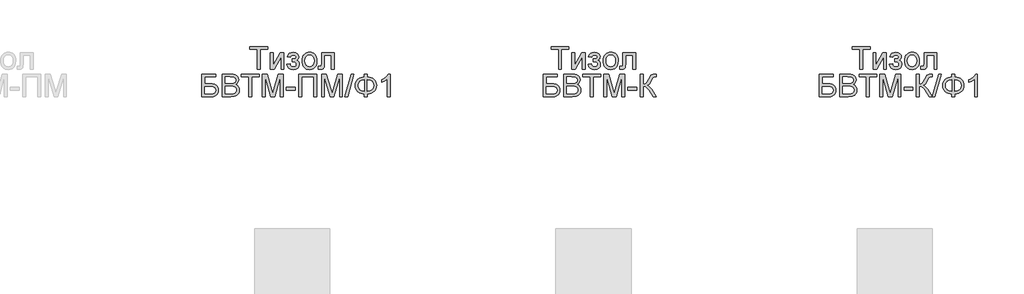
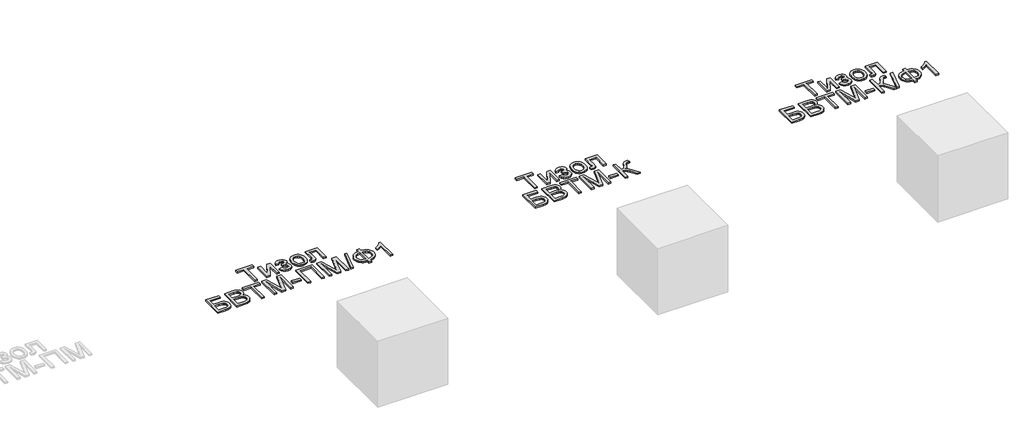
# One storey, part 18 of 35: 3 proxies.
"""IFC4 building model written with IfcOpenShell, lengths in millimetres."""

from ifc_helpers import new_model, si_unit, origin, origin_with_axes, place, context, project, spatial, polyline, outline, extrude, element, save

model = new_model("IFC4")

# Units and contexts
model_context = context("Model", 3, world=origin())
ifc_project = project(units=[si_unit("LENGTHUNIT", "METRE", prefix="MILLI")], contexts=[model_context])

# Site, building, storey
site = spatial("IfcSite", under=ifc_project)
building = spatial("IfcBuilding", under=site)
storey = spatial("IfcBuildingStorey", under=building, Name="Этаж 01", Elevation=0.0)

# Proxies
placement = place(None, origin())
element("IfcBuildingElementProxy", 1, Name="600 мм Arial", ObjectType="600 мм Arial", at=placement, inside=storey, context=model_context, shape_type="SweptSolid", body=[
    extrude(outline(polyline([(5437.6102066, -38214.5066797), (5437.6102066, -37950.8088656), (5338.7235263, -37950.8088656), (5338.7235263, -37913.1377493), (5574.1680032, -37913.1377493), (5574.1680032, -37950.8088656), (5475.2813229, -37950.8088656), (5475.2813229, -38214.5066797), (5437.6102066, -38214.5066797)])), origin_with_axes(), (0.0, 0.0, 1.0), 20.0),
    extrude(outline(polyline([(5611.8391195, -37993.1888714), (5649.5102358, -37993.1888714), (5649.5102358, -38161.9731308), (5742.0693458, -37993.1888714), (5790.776922, -37993.1888714), (5790.776922, -38214.5066797), (5753.1058056, -38214.5066797), (5753.1058056, -38046.7524899), (5661.1353069, -38214.5066797), (5611.8391195, -38214.5066797), (5611.8391195, -37993.1888714)])), origin_with_axes(), (0.0, 0.0, 1.0), 20.0),
    extrude(outline(polyline([(5899.0813813, -38115.6199994), (5899.0813813, -38077.9488831), (5928.8062465, -38076.4773551), (5943.8158319, -38068.6414686), (5949.1133327, -38061.2930258), (5950.8791663, -38052.2707199), (5948.5155244, -38041.5561567), (5941.424599, -38033.2512207), (5930.5996713, -38027.9261288), (5917.0340227, -38026.1510982), (5903.3212213, -38027.9169318), (5891.834106, -38033.2144325), (5882.5726768, -38042.0436004), (5875.5369336, -38054.4044354), (5833.1569278, -38049.6955459), (5844.3957227, -38022.9137366), (5861.4838414, -38003.7838729), (5884.4212838, -37992.3059546), (5913.2080499, -37988.4799819), (5944.6987487, -37993.1428862), (5968.537502, -38007.131599), (5983.5470874, -38027.595035), (5988.5502826, -38051.6821087), (5986.7706534, -38064.0429437), (5981.431766, -38075.0794036), (5972.5336202, -38084.7914882), (5960.0762161, -38093.1791977), (5974.616752, -38103.6454405), (5984.9818272, -38116.650069), (5991.1898359, -38132.2298715), (5993.2591721, -38150.4216362), (5988.0076566, -38178.1507416), (5972.2531102, -38200.1224937), (5947.0623906, -38214.4423004), (5913.5023555, -38219.2155693), (5880.6780845, -38214.8009853), (5855.5609413, -38201.5572335), (5838.1509259, -38179.4843138), (5828.4480383, -38148.5822262), (5870.8280441, -38143.8733367), (5877.1740085, -38159.802627), (5887.8241923, -38171.6852155), (5901.5461907, -38179.0796436), (5917.1075991, -38181.544453), (5932.2643373, -38179.1808111), (5944.6251723, -38172.0898857), (5952.8473349, -38161.3201403), (5955.5880558, -38147.9200386), (5953.8866016, -38137.306643), (5948.7822389, -38128.1279873), (5934.2876883, -38117.5329858), (5906.4390212, -38115.3992702), (5899.0813813, -38115.6199994)])), origin_with_axes(), (0.0, 0.0, 1.0), 20.0),
    extrude(outline(polyline([(6030.9302884, -38103.8477756), (6032.967435, -38075.1851696), (6039.0788746, -38050.4864922), (6049.2646073, -38029.7517432), (6063.5246332, -38012.9809228), (6077.881228, -38002.2617611), (6093.727745, -37994.6052171), (6111.064184, -37990.0112907), (6129.8905451, -37988.4799819), (6150.6735786, -37990.3446838), (6169.4654507, -37995.9387893), (6186.2661616, -38005.2622987), (6201.0757112, -38018.3152117), (6213.162934, -38034.6560701), (6221.7966646, -38053.8434154), (6226.9769029, -38075.8772476), (6228.703649, -38100.7575668), (6225.6502285, -38138.8149592), (6216.4899668, -38167.7856663), (6201.4895784, -38189.481507), (6180.9157778, -38205.7143), (6156.4792163, -38215.840252), (6129.8905451, -38219.2155693), (6108.804009, -38217.3577652), (6089.8373929, -38211.784353), (6072.9906968, -38202.4953326), (6058.2639206, -38189.4907041), (6046.3054565, -38172.9911966), (6037.7636965, -38153.2175393), (6032.6386404, -38130.1697323), (6030.9302884, -38103.8477756)]), holes=[polyline([(6068.6014047, -38103.7741992), (6072.9608064, -38137.8676631), (6086.0390113, -38162.1570718), (6105.720698, -38176.6976077), (6129.8905451, -38181.544453), (6153.9500276, -38176.6700165), (6173.5949261, -38162.0467072), (6186.6731311, -38137.4354017), (6191.0325327, -38102.5969768), (6186.6455399, -38069.4967943), (6173.4845615, -38045.5384793), (6153.8120718, -38030.9979435), (6129.8905451, -38026.1510982), (6105.720698, -38030.9795494), (6086.0390113, -38045.4649029), (6072.9608064, -38069.6991294), (6068.6014047, -38103.7741992)])]), origin_with_axes(), (0.0, 0.0, 1.0), 20.0),
    extrude(outline(polyline([(6289.919213, -37993.1888714), (6459.4392364, -37993.1888714), (6459.4392364, -38214.2859505), (6421.7681201, -38214.2859505), (6421.7681201, -38030.8599877), (6327.5903293, -38030.8599877), (6327.5903293, -38136.4421204), (6325.0519435, -38185.1496965), (6320.2970688, -38196.1769593), (6311.1092159, -38205.7143), (6297.1664883, -38212.3085848), (6278.1469892, -38214.5066797), (6247.5392072, -38212.5936934), (6247.5392072, -38176.8355634), (6264.3882025, -38176.8355634), (6281.4211389, -38174.5179069), (6288.2269558, -38167.1602669), (6289.919213, -38134.3084048), (6289.919213, -37993.1888714)])), origin_with_axes(), (0.0, 0.0, 1.0), 20.0),
    extrude(outline(polyline([(4698.3145491, -38279.0622028), (4886.6701306, -38279.0622028), (4886.6701306, -38316.7333191), (4735.9856654, -38316.7333191), (4735.9856654, -38406.2022203), (4806.5454321, -38406.2022203), (4841.6229803, -38408.1152067), (4868.7174892, -38413.8541658), (4889.5212161, -38424.9090198), (4905.726418, -38442.7696907), (4916.1558725, -38465.7623154), (4919.6323574, -38492.2130308), (4917.158351, -38514.4239063), (4909.7363317, -38535.1448597), (4897.4030878, -38553.2906391), (4880.1954075, -38567.7759926), (4853.6527215, -38577.2673481), (4813.3144608, -38580.4311333), (4698.3145491, -38580.4311333), (4698.3145491, -38279.0622028)]), holes=[polyline([(4735.9856654, -38542.760017), (4816.6989751, -38542.760017), (4845.2282238, -38539.6514141), (4865.6272805, -38530.3256055), (4877.8777509, -38514.7825912), (4881.9612411, -38493.0223712), (4879.6251904, -38476.8171693), (4872.6170384, -38463.5182352), (4861.4426228, -38453.6589977), (4846.6077813, -38447.7728858), (4789.8435895, -38443.8733367), (4735.9856654, -38443.8733367), (4735.9856654, -38542.760017)])]), origin_with_axes(), (0.0, 0.0, 1.0), 20.0),
    extrude(outline(polyline([(4971.4301423, -38580.4311333), (4971.4301423, -38279.0622028), (5086.430054, -38279.0622028), (5118.0587085, -38281.2786918), (5142.7527874, -38287.9281589), (5161.6803161, -38299.1761509), (5176.0093198, -38315.1882147), (5185.0316257, -38334.0237729), (5188.0390611, -38353.7422478), (5185.5098723, -38371.8880272), (5177.9223062, -38388.9485548), (5165.2211803, -38403.8753667), (5147.3513124, -38415.6199994), (5168.6976652, -38426.7668239), (5184.4706057, -38443.7261839), (5194.2102815, -38465.3760393), (5197.4568401, -38490.59435), (5195.2403511, -38511.609609), (5188.590884, -38531.0981577), (5178.6672672, -38547.6712416), (5166.6283289, -38559.9401061), (5151.885458, -38568.8244563), (5133.8500432, -38575.2439971), (5085.5471372, -38580.4311333), (4971.4301423, -38580.4311333)]), holes=[polyline([(5009.1012586, -38401.4933308), (5077.8951917, -38401.4933308), (5118.0679056, -38398.2559693), (5132.1301948, -38392.67336), (5142.2377527, -38384.3132416), (5148.3353967, -38373.3043729), (5150.3679447, -38359.7755126), (5148.4733525, -38346.6421253), (5142.7895756, -38335.2009953), (5133.5741317, -38326.2706598), (5121.0845379, -38320.6696565), (5072.6712674, -38316.7333191), (5009.1012586, -38316.7333191), (5009.1012586, -38401.4933308)]), polyline([(5009.1012586, -38542.760017), (5086.3564776, -38542.760017), (5114.3155092, -38541.288489), (5137.9703215, -38533.0847205), (5153.6420945, -38516.3460897), (5158.2498165, -38504.5186836), (5159.7857238, -38490.962232), (5157.983102, -38475.2168826), (5152.5752367, -38461.6788252), (5143.1298665, -38451.0930208), (5129.21473, -38444.2044304), (5109.5054521, -38440.4244429), (5082.6776576, -38439.1644471), (5009.1012586, -38439.1644471), (5009.1012586, -38542.760017)])]), origin_with_axes(), (0.0, 0.0, 1.0), 20.0),
    extrude(outline(polyline([(5324.5968577, -38580.4311333), (5324.5968577, -38316.7333191), (5225.7101774, -38316.7333191), (5225.7101774, -38279.0622028), (5461.1546543, -38279.0622028), (5461.1546543, -38316.7333191), (5362.267974, -38316.7333191), (5362.267974, -38580.4311333), (5324.5968577, -38580.4311333)])), origin_with_axes(), (0.0, 0.0, 1.0), 20.0),
    extrude(outline(polyline([(5503.5346601, -38580.4311333), (5503.5346601, -38279.0622028), (5568.3554677, -38279.0622028), (5630.0124901, -38491.4772668), (5642.4469015, -38535.8438354), (5655.9113825, -38487.7984469), (5716.5383353, -38279.0622028), (5781.3591429, -38279.0622028), (5781.3591429, -38580.4311333), (5743.6880266, -38580.4311333), (5743.6880266, -38316.7333191), (5667.977912, -38580.4311333), (5616.915891, -38580.4311333), (5541.2057764, -38316.7333191), (5541.2057764, -38580.4311333), (5503.5346601, -38580.4311333)])), origin_with_axes(), (0.0, 0.0, 1.0), 20.0),
    extrude(outline(polyline([(5823.7391487, -38490.962232), (5823.7391487, -38453.2911157), (5941.4613872, -38453.2911157), (5941.4613872, -38490.962232), (5823.7391487, -38490.962232)])), origin_with_axes(), (0.0, 0.0, 1.0), 20.0),
    extrude(outline(polyline([(5988.5502826, -38279.0622028), (6223.9947595, -38279.0622028), (6223.9947595, -38580.4311333), (6186.3236432, -38580.4311333), (6186.3236432, -38316.7333191), (6026.2213989, -38316.7333191), (6026.2213989, -38580.4311333), (5988.5502826, -38580.4311333), (5988.5502826, -38279.0622028)])), origin_with_axes(), (0.0, 0.0, 1.0), 20.0),
    extrude(outline(polyline([(6289.919213, -38580.4311333), (6289.919213, -38279.0622028), (6354.7400206, -38279.0622028), (6416.397043, -38491.4772668), (6428.8314544, -38535.8438354), (6442.2959354, -38487.7984469), (6502.9228882, -38279.0622028), (6567.7436958, -38279.0622028), (6567.7436958, -38580.4311333), (6530.0725795, -38580.4311333), (6530.0725795, -38316.7333191), (6454.3624649, -38580.4311333), (6403.3004439, -38580.4311333), (6327.5903293, -38316.7333191), (6327.5903293, -38580.4311333), (6289.919213, -38580.4311333)])), origin_with_axes(), (0.0, 0.0, 1.0), 20.0),
    extrude(outline(polyline([(6600.7059225, -38580.4311333), (6685.4659342, -38279.0622028), (6719.4582306, -38279.0622028), (6634.6982189, -38580.4311333), (6600.7059225, -38580.4311333)])), origin_with_axes(), (0.0, 0.0, 1.0), 20.0),
    extrude(outline(polyline([(6859.6948471, -38316.7333191), (6859.6948471, -38279.0622028), (6897.3659634, -38279.0622028), (6897.3659634, -38316.7333191), (6924.2374439, -38320.0534541), (6948.1244817, -38326.9236504), (6969.0270768, -38337.3439079), (6986.9452293, -38351.3142267), (7001.317919, -38368.0206678), (7011.5841259, -38386.6492923), (7017.7438501, -38407.2001003), (7019.7970914, -38429.6730916), (7017.8082294, -38451.6954276), (7011.8416433, -38471.9979152), (7001.8973331, -38490.5805545), (6987.9752989, -38507.4433454), (6970.3790432, -38521.6527875), (6949.4120687, -38532.2753801), (6925.0743755, -38539.3111233), (6897.3659634, -38542.760017), (6897.3659634, -38580.4311333), (6859.6948471, -38580.4311333), (6859.6948471, -38542.760017), (6834.5271201, -38539.9526175), (6811.5574881, -38533.5905582), (6790.7859509, -38523.6738392), (6772.2125087, -38510.2024604), (6756.9224133, -38493.7328433), (6746.0009165, -38474.8214095), (6739.4480185, -38453.4681589), (6737.2637191, -38429.6730916), (6739.4411207, -38405.769959), (6745.9733254, -38384.386818), (6756.8603332, -38365.5236687), (6772.1021441, -38349.1805111), (6790.6410974, -38335.8401902), (6811.4195323, -38325.9855513), (6834.4374489, -38319.6165943), (6859.6948471, -38316.7333191)]), holes=[polyline([(6897.3659634, -38354.4044354), (6897.3659634, -38505.0889007), (6932.6090586, -38498.8624979), (6959.4644442, -38483.7149567), (6969.378864, -38472.9888973), (6976.4605924, -38460.4188294), (6982.1259751, -38429.746668), (6976.56176, -38399.4883739), (6969.606491, -38386.9941817), (6959.8691144, -38376.2566259), (6933.1148963, -38360.9343408), (6897.3659634, -38354.4044354)]), polyline([(6859.6948471, -38354.4044354), (6825.4174422, -38360.4377001), (6798.3689185, -38375.4472855), (6788.1165072, -38386.1526516), (6780.7933562, -38398.771004), (6776.3994656, -38413.3023429), (6774.9348354, -38429.746668), (6776.3810715, -38446.0415412), (6780.7197798, -38460.4924058), (6787.9509603, -38473.0992619), (6798.0746129, -38483.8621095), (6825.0495602, -38499.0096507), (6859.6948471, -38505.0889007), (6859.6948471, -38354.4044354)])]), origin_with_axes(), (0.0, 0.0, 1.0), 20.0),
    extrude(outline(polyline([(7198.7348939, -38580.4311333), (7161.0637776, -38580.4311333), (7161.0637776, -38345.5752675), (7125.3792241, -38370.9959134), (7085.721545, -38390.0154126), (7085.721545, -38354.4044354), (7115.3084544, -38338.3095981), (7140.9406325, -38319.1613403), (7161.146551, -38298.7990719), (7174.4546822, -38279.0622028), (7198.7348939, -38279.0622028), (7198.7348939, -38580.4311333)])), origin_with_axes(), (0.0, 0.0, 1.0), 20.0),
])
element("IfcBuildingElementProxy", 2, Name="600 мм Arial", ObjectType="600 мм Arial", at=placement, inside=storey, context=model_context, shape_type="SweptSolid", body=[
    extrude(outline(polyline([(9437.6102066, -38214.5066797), (9437.6102066, -37950.8088656), (9338.7235263, -37950.8088656), (9338.7235263, -37913.1377493), (9574.1680032, -37913.1377493), (9574.1680032, -37950.8088656), (9475.2813229, -37950.8088656), (9475.2813229, -38214.5066797), (9437.6102066, -38214.5066797)])), origin_with_axes(), (0.0, 0.0, 1.0), 20.0),
    extrude(outline(polyline([(9611.8391195, -37993.1888714), (9649.5102358, -37993.1888714), (9649.5102358, -38161.9731308), (9742.0693458, -37993.1888714), (9790.776922, -37993.1888714), (9790.776922, -38214.5066797), (9753.1058056, -38214.5066797), (9753.1058056, -38046.7524899), (9661.1353069, -38214.5066797), (9611.8391195, -38214.5066797), (9611.8391195, -37993.1888714)])), origin_with_axes(), (0.0, 0.0, 1.0), 20.0),
    extrude(outline(polyline([(9899.0813813, -38115.6199994), (9899.0813813, -38077.9488831), (9928.8062465, -38076.4773551), (9943.8158319, -38068.6414686), (9949.1133327, -38061.2930258), (9950.8791663, -38052.2707199), (9948.5155244, -38041.5561567), (9941.424599, -38033.2512207), (9930.5996713, -38027.9261288), (9917.0340227, -38026.1510982), (9903.3212213, -38027.9169318), (9891.834106, -38033.2144325), (9882.5726768, -38042.0436004), (9875.5369336, -38054.4044354), (9833.1569278, -38049.6955459), (9844.3957227, -38022.9137366), (9861.4838414, -38003.7838729), (9884.4212838, -37992.3059546), (9913.2080499, -37988.4799819), (9944.6987487, -37993.1428862), (9968.537502, -38007.131599), (9983.5470874, -38027.595035), (9988.5502826, -38051.6821087), (9986.7706534, -38064.0429437), (9981.431766, -38075.0794036), (9972.5336202, -38084.7914882), (9960.0762161, -38093.1791977), (9974.616752, -38103.6454405), (9984.9818272, -38116.650069), (9991.1898359, -38132.2298715), (9993.2591721, -38150.4216362), (9988.0076566, -38178.1507416), (9972.2531102, -38200.1224937), (9947.0623906, -38214.4423004), (9913.5023555, -38219.2155693), (9880.6780845, -38214.8009853), (9855.5609413, -38201.5572335), (9838.1509259, -38179.4843138), (9828.4480383, -38148.5822262), (9870.8280441, -38143.8733367), (9877.1740085, -38159.802627), (9887.8241923, -38171.6852155), (9901.5461907, -38179.0796436), (9917.1075991, -38181.544453), (9932.2643373, -38179.1808111), (9944.6251723, -38172.0898857), (9952.8473349, -38161.3201403), (9955.5880558, -38147.9200386), (9953.8866016, -38137.306643), (9948.7822389, -38128.1279873), (9934.2876883, -38117.5329858), (9906.4390212, -38115.3992702), (9899.0813813, -38115.6199994)])), origin_with_axes(), (0.0, 0.0, 1.0), 20.0),
    extrude(outline(polyline([(10030.9302884, -38103.8477756), (10032.967435, -38075.1851696), (10039.0788746, -38050.4864922), (10049.2646073, -38029.7517432), (10063.5246332, -38012.9809228), (10077.881228, -38002.2617611), (10093.727745, -37994.6052171), (10111.064184, -37990.0112907), (10129.8905451, -37988.4799819), (10150.6735786, -37990.3446838), (10169.4654507, -37995.9387893), (10186.2661616, -38005.2622987), (10201.0757112, -38018.3152117), (10213.162934, -38034.6560701), (10221.7966646, -38053.8434154), (10226.9769029, -38075.8772476), (10228.703649, -38100.7575668), (10225.6502285, -38138.8149592), (10216.4899668, -38167.7856663), (10201.4895784, -38189.481507), (10180.9157778, -38205.7143), (10156.4792163, -38215.840252), (10129.8905451, -38219.2155693), (10108.804009, -38217.3577652), (10089.8373929, -38211.784353), (10072.9906968, -38202.4953326), (10058.2639206, -38189.4907041), (10046.3054565, -38172.9911966), (10037.7636965, -38153.2175393), (10032.6386404, -38130.1697323), (10030.9302884, -38103.8477756)]), holes=[polyline([(10068.6014047, -38103.7741992), (10072.9608064, -38137.8676631), (10086.0390113, -38162.1570718), (10105.720698, -38176.6976077), (10129.8905451, -38181.544453), (10153.9500276, -38176.6700165), (10173.5949261, -38162.0467072), (10186.6731311, -38137.4354017), (10191.0325327, -38102.5969768), (10186.6455399, -38069.4967943), (10173.4845615, -38045.5384793), (10153.8120718, -38030.9979435), (10129.8905451, -38026.1510982), (10105.720698, -38030.9795494), (10086.0390113, -38045.4649029), (10072.9608064, -38069.6991294), (10068.6014047, -38103.7741992)])]), origin_with_axes(), (0.0, 0.0, 1.0), 20.0),
    extrude(outline(polyline([(10289.919213, -37993.1888714), (10459.4392364, -37993.1888714), (10459.4392364, -38214.2859505), (10421.7681201, -38214.2859505), (10421.7681201, -38030.8599877), (10327.5903293, -38030.8599877), (10327.5903293, -38136.4421204), (10325.0519435, -38185.1496965), (10320.2970688, -38196.1769593), (10311.1092159, -38205.7143), (10297.1664883, -38212.3085848), (10278.1469892, -38214.5066797), (10247.5392072, -38212.5936934), (10247.5392072, -38176.8355634), (10264.3882025, -38176.8355634), (10281.4211389, -38174.5179069), (10288.2269558, -38167.1602669), (10289.919213, -38134.3084048), (10289.919213, -37993.1888714)])), origin_with_axes(), (0.0, 0.0, 1.0), 20.0),
    extrude(outline(polyline([(9232.7735117, -38279.0622028), (9421.1290932, -38279.0622028), (9421.1290932, -38316.7333191), (9270.444628, -38316.7333191), (9270.444628, -38406.2022203), (9341.0043946, -38406.2022203), (9376.0819429, -38408.1152067), (9403.1764518, -38413.8541658), (9423.9801787, -38424.9090198), (9440.1853805, -38442.7696907), (9450.6148351, -38465.7623154), (9454.09132, -38492.2130308), (9451.6173135, -38514.4239063), (9444.1952943, -38535.1448597), (9431.8620504, -38553.2906391), (9414.6543701, -38567.7759926), (9388.1116841, -38577.2673481), (9347.7734234, -38580.4311333), (9232.7735117, -38580.4311333), (9232.7735117, -38279.0622028)]), holes=[polyline([(9270.444628, -38542.760017), (9351.1579377, -38542.760017), (9379.6871864, -38539.6514141), (9400.0862431, -38530.3256055), (9412.3367135, -38514.7825912), (9416.4202037, -38493.0223712), (9414.084153, -38476.8171693), (9407.076001, -38463.5182352), (9395.9015854, -38453.6589977), (9381.0667439, -38447.7728858), (9324.3025521, -38443.8733367), (9270.444628, -38443.8733367), (9270.444628, -38542.760017)])]), origin_with_axes(), (0.0, 0.0, 1.0), 20.0),
    extrude(outline(polyline([(9505.8891049, -38580.4311333), (9505.8891049, -38279.0622028), (9620.8890166, -38279.0622028), (9652.5176711, -38281.2786918), (9677.21175, -38287.9281589), (9696.1392787, -38299.1761509), (9710.4682824, -38315.1882147), (9719.4905883, -38334.0237729), (9722.4980236, -38353.7422478), (9719.9688349, -38371.8880272), (9712.3812688, -38388.9485548), (9699.6801429, -38403.8753667), (9681.810275, -38415.6199994), (9703.1566278, -38426.7668239), (9718.9295683, -38443.7261839), (9728.6692441, -38465.3760393), (9731.9158027, -38490.59435), (9729.6993137, -38511.609609), (9723.0498466, -38531.0981577), (9713.1262298, -38547.6712416), (9701.0872915, -38559.9401061), (9686.3444206, -38568.8244563), (9668.3090058, -38575.2439971), (9620.0060998, -38580.4311333), (9505.8891049, -38580.4311333)]), holes=[polyline([(9543.5602212, -38401.4933308), (9612.3541543, -38401.4933308), (9652.5268682, -38398.2559693), (9666.5891574, -38392.67336), (9676.6967152, -38384.3132416), (9682.7943593, -38373.3043729), (9684.8269073, -38359.7755126), (9682.9323151, -38346.6421253), (9677.2485382, -38335.2009953), (9668.0330943, -38326.2706598), (9655.5435005, -38320.6696565), (9607.13023, -38316.7333191), (9543.5602212, -38316.7333191), (9543.5602212, -38401.4933308)]), polyline([(9543.5602212, -38542.760017), (9620.8154402, -38542.760017), (9648.7744718, -38541.288489), (9672.4292841, -38533.0847205), (9688.1010571, -38516.3460897), (9692.7087791, -38504.5186836), (9694.2446864, -38490.962232), (9692.4420646, -38475.2168826), (9687.0341993, -38461.6788252), (9677.5888291, -38451.0930208), (9663.6736926, -38444.2044304), (9643.9644147, -38440.4244429), (9617.1366202, -38439.1644471), (9543.5602212, -38439.1644471), (9543.5602212, -38542.760017)])]), origin_with_axes(), (0.0, 0.0, 1.0), 20.0),
    extrude(outline(polyline([(9859.0558203, -38580.4311333), (9859.0558203, -38316.7333191), (9760.16914, -38316.7333191), (9760.16914, -38279.0622028), (9995.6136169, -38279.0622028), (9995.6136169, -38316.7333191), (9896.7269366, -38316.7333191), (9896.7269366, -38580.4311333), (9859.0558203, -38580.4311333)])), origin_with_axes(), (0.0, 0.0, 1.0), 20.0),
    extrude(outline(polyline([(10037.9936227, -38580.4311333), (10037.9936227, -38279.0622028), (10102.8144303, -38279.0622028), (10164.4714527, -38491.4772668), (10176.9058641, -38535.8438354), (10190.3703451, -38487.7984469), (10250.9972979, -38279.0622028), (10315.8181055, -38279.0622028), (10315.8181055, -38580.4311333), (10278.1469892, -38580.4311333), (10278.1469892, -38316.7333191), (10202.4368746, -38580.4311333), (10151.3748536, -38580.4311333), (10075.664739, -38316.7333191), (10075.664739, -38580.4311333), (10037.9936227, -38580.4311333)])), origin_with_axes(), (0.0, 0.0, 1.0), 20.0),
    extrude(outline(polyline([(10358.1981113, -38490.962232), (10358.1981113, -38453.2911157), (10475.9203498, -38453.2911157), (10475.9203498, -38490.962232), (10358.1981113, -38490.962232)])), origin_with_axes(), (0.0, 0.0, 1.0), 20.0),
    extrude(outline(polyline([(10523.0092452, -38279.0622028), (10560.6803615, -38279.0622028), (10560.6803615, -38410.9111099), (10586.1837808, -38408.4187094), (10602.8028499, -38400.9415078), (10616.2397398, -38383.3475514), (10632.1966213, -38350.5048863), (10652.981954, -38308.3823978), (10663.0067384, -38296.9688589), (10676.5264017, -38287.5234887), (10692.5752538, -38281.1775243), (10710.1876043, -38279.0622028), (10734.9092744, -38279.5036612), (10734.9092744, -38317.1747775), (10726.5951413, -38316.9540483), (10718.2810082, -38316.7333191), (10701.0273426, -38318.9957934), (10688.8504486, -38325.7832162), (10678.3658117, -38340.0386435), (10666.4832233, -38364.5579785), (10651.9058992, -38395.0921841), (10639.8117786, -38411.7940267), (10613.8025216, -38427.3922233), (10628.3936412, -38433.6002319), (10642.8835933, -38444.4251596), (10671.5599948, -38479.9257722), (10734.9092744, -38580.4311333), (10691.2048933, -38580.4311333), (10637.6412748, -38495.5239688), (10616.9571097, -38468.2915041), (10599.9333703, -38451.1941884), (10582.5233549, -38442.1718824), (10560.6803615, -38439.1644471), (10560.6803615, -38580.4311333), (10523.0092452, -38580.4311333), (10523.0092452, -38279.0622028)])), origin_with_axes(), (0.0, 0.0, 1.0), 20.0),
])
element("IfcBuildingElementProxy", 3, Name="600 мм Arial", ObjectType="600 мм Arial", at=placement, inside=storey, context=model_context, shape_type="SweptSolid", body=[
    extrude(outline(polyline([(13437.6102066, -38214.5066797), (13437.6102066, -37950.8088656), (13338.7235263, -37950.8088656), (13338.7235263, -37913.1377493), (13574.1680032, -37913.1377493), (13574.1680032, -37950.8088656), (13475.2813229, -37950.8088656), (13475.2813229, -38214.5066797), (13437.6102066, -38214.5066797)])), origin_with_axes(), (0.0, 0.0, 1.0), 20.0),
    extrude(outline(polyline([(13611.8391195, -37993.1888714), (13649.5102358, -37993.1888714), (13649.5102358, -38161.9731308), (13742.0693458, -37993.1888714), (13790.776922, -37993.1888714), (13790.776922, -38214.5066797), (13753.1058056, -38214.5066797), (13753.1058056, -38046.7524899), (13661.1353069, -38214.5066797), (13611.8391195, -38214.5066797), (13611.8391195, -37993.1888714)])), origin_with_axes(), (0.0, 0.0, 1.0), 20.0),
    extrude(outline(polyline([(13899.0813813, -38115.6199994), (13899.0813813, -38077.9488831), (13928.8062465, -38076.4773551), (13943.8158319, -38068.6414686), (13949.1133327, -38061.2930258), (13950.8791663, -38052.2707199), (13948.5155244, -38041.5561567), (13941.424599, -38033.2512207), (13930.5996713, -38027.9261288), (13917.0340227, -38026.1510982), (13903.3212213, -38027.9169318), (13891.834106, -38033.2144325), (13882.5726768, -38042.0436004), (13875.5369336, -38054.4044354), (13833.1569278, -38049.6955459), (13844.3957227, -38022.9137366), (13861.4838414, -38003.7838729), (13884.4212838, -37992.3059546), (13913.2080499, -37988.4799819), (13944.6987487, -37993.1428862), (13968.537502, -38007.131599), (13983.5470874, -38027.595035), (13988.5502826, -38051.6821087), (13986.7706534, -38064.0429437), (13981.431766, -38075.0794036), (13972.5336202, -38084.7914882), (13960.0762161, -38093.1791977), (13974.616752, -38103.6454405), (13984.9818272, -38116.650069), (13991.1898359, -38132.2298715), (13993.2591721, -38150.4216362), (13988.0076566, -38178.1507416), (13972.2531102, -38200.1224937), (13947.0623906, -38214.4423004), (13913.5023555, -38219.2155693), (13880.6780845, -38214.8009853), (13855.5609413, -38201.5572335), (13838.1509259, -38179.4843138), (13828.4480383, -38148.5822262), (13870.8280441, -38143.8733367), (13877.1740085, -38159.802627), (13887.8241923, -38171.6852155), (13901.5461907, -38179.0796436), (13917.1075991, -38181.544453), (13932.2643373, -38179.1808111), (13944.6251723, -38172.0898857), (13952.8473349, -38161.3201403), (13955.5880558, -38147.9200386), (13953.8866016, -38137.306643), (13948.7822389, -38128.1279873), (13934.2876883, -38117.5329858), (13906.4390212, -38115.3992702), (13899.0813813, -38115.6199994)])), origin_with_axes(), (0.0, 0.0, 1.0), 20.0),
    extrude(outline(polyline([(14030.9302884, -38103.8477756), (14032.967435, -38075.1851696), (14039.0788746, -38050.4864922), (14049.2646073, -38029.7517432), (14063.5246332, -38012.9809228), (14077.881228, -38002.2617611), (14093.727745, -37994.6052171), (14111.064184, -37990.0112907), (14129.8905451, -37988.4799819), (14150.6735786, -37990.3446838), (14169.4654507, -37995.9387893), (14186.2661616, -38005.2622987), (14201.0757112, -38018.3152117), (14213.162934, -38034.6560701), (14221.7966646, -38053.8434154), (14226.9769029, -38075.8772476), (14228.703649, -38100.7575668), (14225.6502285, -38138.8149592), (14216.4899668, -38167.7856663), (14201.4895784, -38189.481507), (14180.9157778, -38205.7143), (14156.4792163, -38215.840252), (14129.8905451, -38219.2155693), (14108.804009, -38217.3577652), (14089.8373929, -38211.784353), (14072.9906968, -38202.4953326), (14058.2639206, -38189.4907041), (14046.3054565, -38172.9911966), (14037.7636965, -38153.2175393), (14032.6386404, -38130.1697323), (14030.9302884, -38103.8477756)]), holes=[polyline([(14068.6014047, -38103.7741992), (14072.9608064, -38137.8676631), (14086.0390113, -38162.1570718), (14105.720698, -38176.6976077), (14129.8905451, -38181.544453), (14153.9500276, -38176.6700165), (14173.5949261, -38162.0467072), (14186.6731311, -38137.4354017), (14191.0325327, -38102.5969768), (14186.6455399, -38069.4967943), (14173.4845615, -38045.5384793), (14153.8120718, -38030.9979435), (14129.8905451, -38026.1510982), (14105.720698, -38030.9795494), (14086.0390113, -38045.4649029), (14072.9608064, -38069.6991294), (14068.6014047, -38103.7741992)])]), origin_with_axes(), (0.0, 0.0, 1.0), 20.0),
    extrude(outline(polyline([(14289.919213, -37993.1888714), (14459.4392364, -37993.1888714), (14459.4392364, -38214.2859505), (14421.7681201, -38214.2859505), (14421.7681201, -38030.8599877), (14327.5903293, -38030.8599877), (14327.5903293, -38136.4421204), (14325.0519435, -38185.1496965), (14320.2970688, -38196.1769593), (14311.1092159, -38205.7143), (14297.1664883, -38212.3085848), (14278.1469892, -38214.5066797), (14247.5392072, -38212.5936934), (14247.5392072, -38176.8355634), (14264.3882025, -38176.8355634), (14281.4211389, -38174.5179069), (14288.2269558, -38167.1602669), (14289.919213, -38134.3084048), (14289.919213, -37993.1888714)])), origin_with_axes(), (0.0, 0.0, 1.0), 20.0),
    extrude(outline(polyline([(12898.4423545, -38279.0622028), (13086.797936, -38279.0622028), (13086.797936, -38316.7333191), (12936.1134708, -38316.7333191), (12936.1134708, -38406.2022203), (13006.6732374, -38406.2022203), (13041.7507857, -38408.1152067), (13068.8452946, -38413.8541658), (13089.6490214, -38424.9090198), (13105.8542233, -38442.7696907), (13116.2836779, -38465.7623154), (13119.7601627, -38492.2130308), (13117.2861563, -38514.4239063), (13109.8641371, -38535.1448597), (13097.5308932, -38553.2906391), (13080.3232129, -38567.7759926), (13053.7805269, -38577.2673481), (13013.4422661, -38580.4311333), (12898.4423545, -38580.4311333), (12898.4423545, -38279.0622028)]), holes=[polyline([(12936.1134708, -38542.760017), (13016.8267805, -38542.760017), (13045.3560292, -38539.6514141), (13065.7550859, -38530.3256055), (13078.0055563, -38514.7825912), (13082.0890464, -38493.0223712), (13079.7529958, -38476.8171693), (13072.7448438, -38463.5182352), (13061.5704282, -38453.6589977), (13046.7355867, -38447.7728858), (12989.9713949, -38443.8733367), (12936.1134708, -38443.8733367), (12936.1134708, -38542.760017)])]), origin_with_axes(), (0.0, 0.0, 1.0), 20.0),
    extrude(outline(polyline([(13171.5579477, -38580.4311333), (13171.5579477, -38279.0622028), (13286.5578594, -38279.0622028), (13318.1865139, -38281.2786918), (13342.8805928, -38287.9281589), (13361.8081215, -38299.1761509), (13376.1371252, -38315.1882147), (13385.1594311, -38334.0237729), (13388.1668664, -38353.7422478), (13385.6376777, -38371.8880272), (13378.0501116, -38388.9485548), (13365.3489857, -38403.8753667), (13347.4791178, -38415.6199994), (13368.8254705, -38426.7668239), (13384.5984111, -38443.7261839), (13394.3380869, -38465.3760393), (13397.5846455, -38490.59435), (13395.3681565, -38511.609609), (13388.7186894, -38531.0981577), (13378.7950726, -38547.6712416), (13366.7561343, -38559.9401061), (13352.0132634, -38568.8244563), (13333.9778485, -38575.2439971), (13285.6749426, -38580.4311333), (13171.5579477, -38580.4311333)]), holes=[polyline([(13209.229064, -38401.4933308), (13278.0229971, -38401.4933308), (13318.1957109, -38398.2559693), (13332.2580002, -38392.67336), (13342.365558, -38384.3132416), (13348.4632021, -38373.3043729), (13350.4957501, -38359.7755126), (13348.6011578, -38346.6421253), (13342.917381, -38335.2009953), (13333.701937, -38326.2706598), (13321.2123433, -38320.6696565), (13272.7990727, -38316.7333191), (13209.229064, -38316.7333191), (13209.229064, -38401.4933308)]), polyline([(13209.229064, -38542.760017), (13286.484283, -38542.760017), (13314.4433146, -38541.288489), (13338.0981269, -38533.0847205), (13353.7698999, -38516.3460897), (13358.3776219, -38504.5186836), (13359.9135292, -38490.962232), (13358.1109074, -38475.2168826), (13352.7030421, -38461.6788252), (13343.2576719, -38451.0930208), (13329.3425354, -38444.2044304), (13309.6332575, -38440.4244429), (13282.805463, -38439.1644471), (13209.229064, -38439.1644471), (13209.229064, -38542.760017)])]), origin_with_axes(), (0.0, 0.0, 1.0), 20.0),
    extrude(outline(polyline([(13524.724663, -38580.4311333), (13524.724663, -38316.7333191), (13425.8379827, -38316.7333191), (13425.8379827, -38279.0622028), (13661.2824597, -38279.0622028), (13661.2824597, -38316.7333191), (13562.3957793, -38316.7333191), (13562.3957793, -38580.4311333), (13524.724663, -38580.4311333)])), origin_with_axes(), (0.0, 0.0, 1.0), 20.0),
    extrude(outline(polyline([(13703.6624655, -38580.4311333), (13703.6624655, -38279.0622028), (13768.483273, -38279.0622028), (13830.1402954, -38491.4772668), (13842.5747069, -38535.8438354), (13856.0391879, -38487.7984469), (13916.6661407, -38279.0622028), (13981.4869483, -38279.0622028), (13981.4869483, -38580.4311333), (13943.8158319, -38580.4311333), (13943.8158319, -38316.7333191), (13868.1057173, -38580.4311333), (13817.0436964, -38580.4311333), (13741.3335818, -38316.7333191), (13741.3335818, -38580.4311333), (13703.6624655, -38580.4311333)])), origin_with_axes(), (0.0, 0.0, 1.0), 20.0),
    extrude(outline(polyline([(14023.8669541, -38490.962232), (14023.8669541, -38453.2911157), (14141.5891926, -38453.2911157), (14141.5891926, -38490.962232), (14023.8669541, -38490.962232)])), origin_with_axes(), (0.0, 0.0, 1.0), 20.0),
    extrude(outline(polyline([(14188.6780879, -38279.0622028), (14226.3492042, -38279.0622028), (14226.3492042, -38410.9111099), (14251.8526236, -38408.4187094), (14268.4716927, -38400.9415078), (14281.9085826, -38383.3475514), (14297.8654641, -38350.5048863), (14318.6507968, -38308.3823978), (14328.6755812, -38296.9688589), (14342.1952445, -38287.5234887), (14358.2440966, -38281.1775243), (14375.8564471, -38279.0622028), (14400.5781172, -38279.5036612), (14400.5781172, -38317.1747775), (14392.2639841, -38316.9540483), (14383.949851, -38316.7333191), (14366.6961854, -38318.9957934), (14354.5192914, -38325.7832162), (14344.0346545, -38340.0386435), (14332.1520661, -38364.5579785), (14317.574742, -38395.0921841), (14305.4806214, -38411.7940267), (14279.4713643, -38427.3922233), (14294.062484, -38433.6002319), (14308.5524361, -38444.4251596), (14337.2288376, -38479.9257722), (14400.5781172, -38580.4311333), (14356.8737361, -38580.4311333), (14303.3101176, -38495.5239688), (14282.6259525, -38468.2915041), (14265.6022131, -38451.1941884), (14248.1921977, -38442.1718824), (14226.3492042, -38439.1644471), (14226.3492042, -38580.4311333), (14188.6780879, -38580.4311333), (14188.6780879, -38279.0622028)])), origin_with_axes(), (0.0, 0.0, 1.0), 20.0),
    extrude(outline(polyline([(14400.5781172, -38580.4311333), (14485.3381288, -38279.0622028), (14519.3304252, -38279.0622028), (14434.5704135, -38580.4311333), (14400.5781172, -38580.4311333)])), origin_with_axes(), (0.0, 0.0, 1.0), 20.0),
    extrude(outline(polyline([(14659.5670418, -38316.7333191), (14659.5670418, -38279.0622028), (14697.2381581, -38279.0622028), (14697.2381581, -38316.7333191), (14724.1096386, -38320.0534541), (14747.9966764, -38326.9236504), (14768.8992715, -38337.3439079), (14786.8174239, -38351.3142267), (14801.1901136, -38368.0206678), (14811.4563205, -38386.6492923), (14817.6160447, -38407.2001003), (14819.6692861, -38429.6730916), (14817.680424, -38451.6954276), (14811.7138379, -38471.9979152), (14801.7695277, -38490.5805545), (14787.8474935, -38507.4433454), (14770.2512378, -38521.6527875), (14749.2842633, -38532.2753801), (14724.9465701, -38539.3111233), (14697.2381581, -38542.760017), (14697.2381581, -38580.4311333), (14659.5670418, -38580.4311333), (14659.5670418, -38542.760017), (14634.3993148, -38539.9526175), (14611.4296827, -38533.5905582), (14590.6581455, -38523.6738392), (14572.0847033, -38510.2024604), (14556.7946079, -38493.7328433), (14545.8731112, -38474.8214095), (14539.3202131, -38453.4681589), (14537.1359138, -38429.6730916), (14539.3133153, -38405.769959), (14545.84552, -38384.386818), (14556.7325278, -38365.5236687), (14571.9743387, -38349.1805111), (14590.513292, -38335.8401902), (14611.2917269, -38325.9855513), (14634.3096435, -38319.6165943), (14659.5670418, -38316.7333191)]), holes=[polyline([(14697.2381581, -38354.4044354), (14697.2381581, -38505.0889007), (14732.4812532, -38498.8624979), (14759.3366389, -38483.7149567), (14769.2510586, -38472.9888973), (14776.332787, -38460.4188294), (14781.9981698, -38429.746668), (14776.4339546, -38399.4883739), (14769.4786856, -38386.9941817), (14759.741309, -38376.2566259), (14732.9870909, -38360.9343408), (14697.2381581, -38354.4044354)]), polyline([(14659.5670418, -38354.4044354), (14625.2896369, -38360.4377001), (14598.2411132, -38375.4472855), (14587.9887018, -38386.1526516), (14580.6655508, -38398.771004), (14576.2716603, -38413.3023429), (14574.8070301, -38429.746668), (14576.2532662, -38446.0415412), (14580.5919744, -38460.4924058), (14587.8231549, -38473.0992619), (14597.9468076, -38483.8621095), (14624.9217549, -38499.0096507), (14659.5670418, -38505.0889007), (14659.5670418, -38354.4044354)])]), origin_with_axes(), (0.0, 0.0, 1.0), 20.0),
    extrude(outline(polyline([(14998.6070885, -38580.4311333), (14960.9359722, -38580.4311333), (14960.9359722, -38345.5752675), (14925.2514187, -38370.9959134), (14885.5937396, -38390.0154126), (14885.5937396, -38354.4044354), (14915.1806491, -38338.3095981), (14940.8128271, -38319.1613403), (14961.0187457, -38298.7990719), (14974.3268768, -38279.0622028), (14998.6070885, -38279.0622028), (14998.6070885, -38580.4311333)])), origin_with_axes(), (0.0, 0.0, 1.0), 20.0),
])

save(model, "model.ifc")
